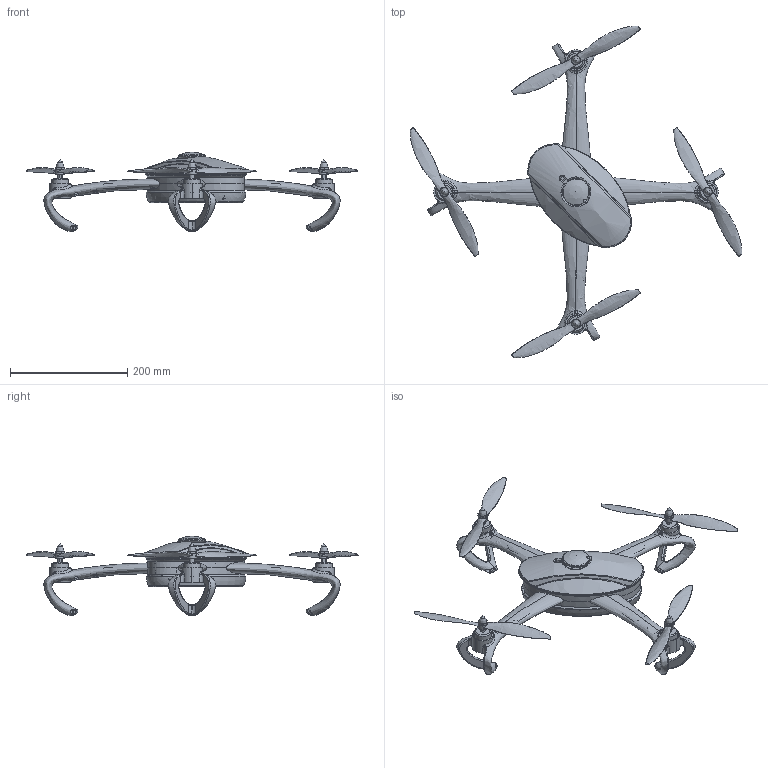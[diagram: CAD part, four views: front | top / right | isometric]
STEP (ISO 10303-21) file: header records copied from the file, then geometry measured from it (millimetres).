
FILE_DESCRIPTION(('STEP AP214'),'1');
FILE_NAME('OpenRC Quad Alpha Assembly.stp','2015-04-25T21:14:29',(' '),(' '),'Spatial InterOp 3D',' ',' ');
FILE_SCHEMA(('automotive_design'));
Length unit declared in the file: millimetre
Products named in the file (24): Quad prop; dji motor; dji GPS/Compass; NAZA Multirotor Lite Autopilot; Rec. Futaba R3008SB; dji LED V-SEN 2S-6S; Battery; OpenRC Quad Alpha
Assembly tree (29 placements, depth 3):
  (unnamed)
    Quad prop  x4
      Quad prop
      Quad prop
    dji motor  x4
    dji GPS/Compass
    NAZA Multirotor Lite Autopilot
    Rec. Futaba R3008SB
    dji LED V-SEN 2S-6S
    Battery
    OpenRC Quad Alpha
      OpenRC Quad Alpha
      OpenRC Quad Alpha
      OpenRC Quad Alpha
      OpenRC Quad Alpha
      OpenRC Quad Alpha
      OpenRC Quad Alpha
      OpenRC Quad Alpha
      OpenRC Quad Alpha
      OpenRC Quad Alpha
      OpenRC Quad Alpha
      OpenRC Quad Alpha
      OpenRC Quad Alpha
      OpenRC Quad Alpha
Bounding box: 566.53 x 566.53 x 135.78 mm (x, y, z)
Volume: 1510440.6 mm3; surface area: 485441 mm2
Topology: 30 solids, 30 shells, 1903 faces, 4953 edges, 3160 vertices
Faces by surface type: plane 1038, cylinder 541, bspline 190, torus 46, sphere 41, cone 31, offset 8, revolution 5, extrusion 3
Full cylindrical faces by diameter (mm): 1 x2, 2 x58, 3 x24, 3.3 x14, 3.5 x48, 4 x1, 5.5 x1, 6 x10, 6.5 x10, 6.8 x1, 7 x4, 8 x7, 9.6 x4, 10 x1, 12.18 x4, 15 x1, 15.6 x4, 20 x1, 28.2 x4, 29.5 x1
Entity records: 164442 total; most frequent: CARTESIAN_POINT 108607, ORIENTED_EDGE 8576, DIRECTION 8104, EDGE_CURVE 4288, AXIS2_PLACEMENT_3D 2899, VERTEX_POINT 2834, VECTOR 2301, LINE 2298
